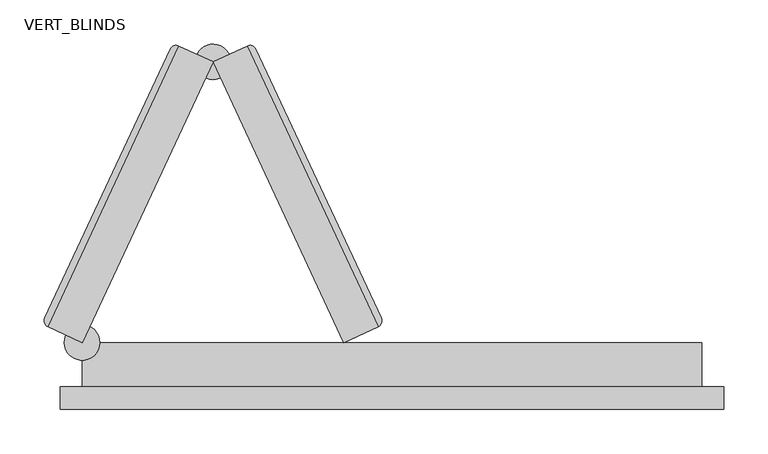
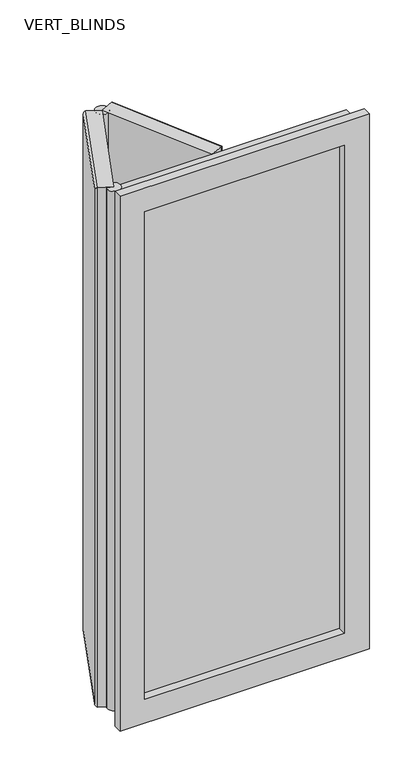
"""IFC4 building model written with IfcOpenShell, lengths in millimetres: plate geometry, CURTAIN PANEL VODA STYLE BIFOLDING : VERT_BLINDS."""

from ifc_helpers import new_model, si_unit, point, frame, frame_2d, origin, place, context, project, spatial, polyline, circle_curve, ellipse_curve, trimmed, segment, composite_curve, outline, extrude, faceted_brep, source, transform, mapped, element, save
from ifc_brep_helpers import plane_surface, cylinder_surface, advanced_brep


def vert_blinds_6ffad1b3(model_context):
    return source(origin(), model_context, "Body", "SolidModel", [
        advanced_brep(
        [(-350.0, 50.0, 1675.0), (-202.0836084, 367.2077255, 1675.0), (-240.6016893, 385.1690016, 1675.0), (-388.5180809, 67.9612761, 1675.0), (-202.0836084, 367.2077255, 25.0), (-350.0, 50.0, 25.0), (-388.5180809, 67.9612761, 25.0), (-240.6016893, 385.1690016, 25.0), (-392.1457524, 77.9282215, 32.5), (-392.1457524, 77.9282215, 1667.5), (-250.5686347, 381.5413301, 1667.5), (-250.5686347, 381.5413301, 32.5)],
        [
            (0, 1),
            (1, 2),
            (2, 3),
            (3, 0),
            (4, 5),
            (5, 6),
            (6, 7),
            (7, 4),
            (1, 4),
            (7, 2),
            (8, 9),
            (9, 10),
            (10, 11),
            (11, 8),
            (5, 0),
            (3, 6),
            (8, 6, ellipse_curve(frame((-385.348444, 74.7585845, 32.5), z_axis=(-0.29883623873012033, -0.6408563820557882, 0.7071067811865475), x_axis=(-0.29883623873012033, -0.6408563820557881, -0.7071067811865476)), 10.6066017, 7.5)),
            (3, 9, ellipse_curve(frame((-385.348444, 74.7585845, 1667.5), z_axis=(-0.2988362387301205, -0.6408563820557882, -0.7071067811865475), x_axis=(0.29883623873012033, 0.6408563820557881, -0.7071067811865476)), 10.6066017, 7.5)),
            (11, 7, ellipse_curve(frame((-243.7713263, 378.3716932, 32.5), z_axis=(-0.29883623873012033, -0.6408563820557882, -0.7071067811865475), x_axis=(0.29883623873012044, 0.6408563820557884, -0.7071067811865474)), 10.6066017, 7.5)),
            (10, 2, ellipse_curve(frame((-243.7713263, 378.3716932, 1667.5), z_axis=(0.2988362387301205, 0.6408563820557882, -0.7071067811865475), x_axis=(0.29883623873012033, 0.6408563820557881, 0.7071067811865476)), 10.6066017, 7.5)),
        ],
        [
            plane_surface(frame((-247.3989977, 388.3386385, 1675.0), z_axis=(0.0, 0.0, 1.0000000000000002), x_axis=(-0.9063077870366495, 0.42261826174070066, 0.0))),
            plane_surface(frame((-247.3989977, 388.3386385, 25.0), z_axis=(0.0, 0.0, -1.0000000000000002), x_axis=(0.9063077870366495, -0.42261826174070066, 0.0))),
            plane_surface(frame((-202.0836084, 367.2077255, 1675.0), z_axis=(0.42261826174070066, 0.9063077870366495, 0.0), x_axis=(0.0, 0.0, -1.0))),
            plane_surface(frame((-247.3989977, 388.3386385, 1675.0), z_axis=(-0.9063077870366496, 0.4226182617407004, 0.0), x_axis=(0.0, 0.0, -1.0))),
            plane_surface(frame((-395.3153894, 71.1309131, 1675.0), z_axis=(-0.4226182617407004, -0.9063077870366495, 0.0), x_axis=(0.0, 0.0, -1.0))),
            plane_surface(frame((-350.0, 50.0, 1675.0), z_axis=(0.9063077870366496, -0.42261826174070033, 0.0), x_axis=(0.0, 0.0, -1.0))),
            cylinder_surface(frame((-385.348444, 74.7585845, 1675.0), z_axis=(0.0, 0.0, -1.0), x_axis=(0.9063077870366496, -0.4226182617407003, 0.0)), 7.5),
            cylinder_surface(frame((-388.5180809, 67.9612761, 32.5), z_axis=(0.4226182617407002, 0.9063077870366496, 0.0), x_axis=(0.9063077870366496, -0.4226182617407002, 0.0)), 7.5),
            cylinder_surface(frame((-243.7713263, 378.3716932, 25.0), z_axis=(0.0, 0.0, 1.0), x_axis=(0.9063077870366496, -0.4226182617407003, 0.0)), 7.5),
            cylinder_surface(frame((-240.6016893, 385.1690016, 1667.5), z_axis=(-0.42261826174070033, -0.9063077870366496, 0.0), x_axis=(0.9063077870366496, -0.42261826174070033, 0.0)), 7.5),
        ],
        [
            (0, [[1, 2, 3, 4]]),
            (1, [[5, 6, 7, 8]]),
            (2, [[9, -8, 10, -2]]),
            (3, [[11, 12, 13, 14]]),
            (4, [[15, -4, 16, -6]]),
            (5, [[-1, -15, -5, -9]]),
            (6, [[17, -16, 18, -11]]),
            (7, [[-17, -14, 19, -7]]),
            (8, [[-19, -13, 20, -10]]),
            (9, [[-18, -3, -20, -12]]),
        ],
    ),
        advanced_brep(
        [(-202.0836084, 367.2077255, 1675.0), (-54.1672168, 50.0, 1675.0), (-15.6491358, 67.9612761, 1675.0), (-163.5655274, 385.1690016, 1675.0), (-54.1672168, 50.0, 25.0), (-202.0836084, 367.2077255, 25.0), (-163.5655274, 385.1690016, 25.0), (-15.6491358, 67.9612761, 25.0), (-153.5985821, 381.5413301, 32.5), (-153.5985821, 381.5413301, 1667.5), (-12.0214644, 77.9282215, 1667.5), (-12.0214644, 77.9282215, 32.5)],
        [
            (0, 1),
            (1, 2),
            (2, 3),
            (3, 0),
            (4, 5),
            (5, 6),
            (6, 7),
            (7, 4),
            (1, 4),
            (7, 2),
            (8, 9),
            (9, 10),
            (10, 11),
            (11, 8),
            (5, 0),
            (3, 6),
            (8, 6, ellipse_curve(frame((-160.3958905, 378.3716932, 32.5), z_axis=(-0.29883623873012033, 0.6408563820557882, 0.7071067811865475), x_axis=(-0.2988362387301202, 0.6408563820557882, -0.7071067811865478)), 10.6066017, 7.5)),
            (3, 9, ellipse_curve(frame((-160.3958905, 378.3716932, 1667.5), z_axis=(-0.2988362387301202, 0.6408563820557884, -0.7071067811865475), x_axis=(0.2988362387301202, -0.6408563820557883, -0.7071067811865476)), 10.6066017, 7.5)),
            (11, 7, ellipse_curve(frame((-18.8187728, 74.7585845, 32.5), z_axis=(-0.29883623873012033, 0.6408563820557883, -0.7071067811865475), x_axis=(0.29883623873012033, -0.6408563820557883, -0.7071067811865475)), 10.6066017, 7.5)),
            (10, 2, ellipse_curve(frame((-18.8187728, 74.7585845, 1667.5), z_axis=(0.2988362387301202, -0.6408563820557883, -0.7071067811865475), x_axis=(0.2988362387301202, -0.6408563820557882, 0.7071067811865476)), 10.6066017, 7.5)),
        ],
        [
            plane_surface(frame((-8.8518274, 71.1309131, 1675.0), z_axis=(0.0, 0.0, 1.0000000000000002), x_axis=(0.9063077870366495, 0.4226182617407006, 0.0))),
            plane_surface(frame((-8.8518274, 71.1309131, 25.0), z_axis=(0.0, 0.0, -1.0000000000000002), x_axis=(-0.9063077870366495, -0.4226182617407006, 0.0))),
            plane_surface(frame((-54.1672168, 50.0, 1675.0), z_axis=(0.4226182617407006, -0.9063077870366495, 0.0), x_axis=(0.0, 0.0, -1.0))),
            plane_surface(frame((-8.8518274, 71.1309131, 1675.0), z_axis=(0.9063077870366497, 0.42261826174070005, 0.0), x_axis=(0.0, 0.0, -1.0))),
            plane_surface(frame((-156.768219, 388.3386385, 1675.0), z_axis=(-0.42261826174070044, 0.9063077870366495, 0.0), x_axis=(0.0, 0.0, -1.0))),
            plane_surface(frame((-202.0836084, 367.2077255, 1675.0), z_axis=(-0.9063077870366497, -0.4226182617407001, 0.0), x_axis=(0.0, 0.0, -1.0))),
            cylinder_surface(frame((-160.3958905, 378.3716932, 1675.0), z_axis=(0.0, 0.0, -1.0), x_axis=(-0.9063077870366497, -0.42261826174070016, 0.0)), 7.5),
            cylinder_surface(frame((-163.5655274, 385.1690016, 32.5), z_axis=(0.42261826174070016, -0.9063077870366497, 0.0), x_axis=(-0.9063077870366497, -0.42261826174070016, 0.0)), 7.5),
            cylinder_surface(frame((-18.8187728, 74.7585845, 25.0), z_axis=(0.0, 0.0, 1.0), x_axis=(-0.9063077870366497, -0.42261826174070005, 0.0)), 7.5),
            cylinder_surface(frame((-15.6491358, 67.9612761, 1667.5), z_axis=(-0.42261826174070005, 0.9063077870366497, 0.0), x_axis=(-0.9063077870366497, -0.42261826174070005, 0.0)), 7.5),
        ],
        [
            (0, [[1, 2, 3, 4]]),
            (1, [[5, 6, 7, 8]]),
            (2, [[9, -8, 10, -2]]),
            (3, [[11, 12, 13, 14]]),
            (4, [[15, -4, 16, -6]]),
            (5, [[-1, -15, -5, -9]]),
            (6, [[17, -16, 18, -11]]),
            (7, [[-17, -14, 19, -7]]),
            (8, [[-19, -13, 20, -10]]),
            (9, [[-18, -3, -20, -12]]),
        ],
    ),
        extrude(outline(composite_curve([segment(trimmed(circle_curve(frame_2d((-350.0, 50.0)), 20.0), [point((-370.0, 50.0))], [point((-330.0, 50.0))], False, "CARTESIAN"), True, "CONTINUOUS"), segment(trimmed(circle_curve(frame_2d((-350.0, 50.0)), 20.0), [point((-330.0, 50.0))], [point((-370.0, 50.0))], False, "CARTESIAN"), True, "CONTINUOUS")], self_intersect=False)), frame((0.0, 0.0, 25.0), z_axis=(0.0, 0.0, 1.0), x_axis=(1.0, 0.0, 0.0)), (0.0, 0.0, 1.0), 1650.0),
        extrude(outline(composite_curve([segment(trimmed(circle_curve(frame_2d((-202.0836084, 367.2077255)), 20.0), [point((-210.5359736, 349.0815697))], [point((-193.6312432, 385.3338812))], False, "CARTESIAN"), True, "CONTINUOUS"), segment(trimmed(circle_curve(frame_2d((-202.0836084, 367.2077255)), 20.0), [point((-193.6312432, 385.3338812))], [point((-210.5359736, 349.0815697))], False, "CARTESIAN"), True, "CONTINUOUS")], self_intersect=False)), frame((0.0, 0.0, 25.0), z_axis=(0.0, 0.0, 1.0), x_axis=(1.0, 0.0, 0.0)), (0.0, 0.0, 1.0), 1650.0),
        extrude(outline(polyline([(-300.0, 24.0), (300.0, 24.0), (300.0, 0.0), (-300.0, 0.0), (-300.0, 24.0)])), frame((0.0, 0.0, 75.0), z_axis=(0.0, 0.0, 1.0), x_axis=(1.0, 0.0, 0.0)), (0.0, 0.0, 1.0), 1550.0),
        faceted_brep([(-300.0, 50.0, 1625.0), (-300.0, -25.0, 1625.0), (-300.0, -25.0, 75.0), (-300.0, 50.0, 75.0), (-375.0, -25.0, 1700.0), (-375.0, 0.0, 1700.0), (-375.0, 0.0, 0.0), (-375.0, -25.0, 0.0), (-350.0, 0.0, 1675.0), (-350.0, 50.0, 1675.0), (-350.0, 50.0, 25.0), (-350.0, 0.0, 25.0), (300.0, -25.0, 75.0), (300.0, 50.0, 75.0), (375.0, 0.0, 0.0), (375.0, -25.0, 0.0), (350.0, 50.0, 25.0), (350.0, 0.0, 25.0), (300.0, -25.0, 1625.0), (300.0, 50.0, 1625.0), (375.0, 0.0, 1700.0), (375.0, -25.0, 1700.0), (350.0, 50.0, 1675.0), (350.0, 0.0, 1675.0)], [[[0, 1, 2, 3]], [[4, 5, 6, 7]], [[8, 9, 10, 11]], [[3, 2, 12, 13]], [[7, 6, 14, 15]], [[11, 10, 16, 17]], [[13, 12, 18, 19]], [[15, 14, 20, 21]], [[17, 16, 22, 23]], [[9, 22, 16, 10], [3, 13, 19, 0]], [[19, 18, 1, 0]], [[7, 15, 21, 4], [1, 18, 12, 2]], [[21, 20, 5, 4]], [[5, 20, 14, 6], [11, 17, 23, 8]], [[23, 22, 9, 8]]]),
    ])


if __name__ == "__main__":
    model = new_model("IFC4")
    model_context = context("Model", 3, world=origin())
    ifc_project = project(units=[si_unit("LENGTHUNIT", "METRE", prefix="MILLI")], contexts=[model_context])
    site = spatial("IfcSite", under=ifc_project)
    building = spatial("IfcBuilding", under=site)
    placement = place(None, origin())
    vert_blinds_shape = vert_blinds_6ffad1b3(model_context)
    element("IfcPlate", 1, ObjectType="CURTAIN PANEL VODA STYLE BIFOLDING : VERT_BLINDS", at=placement, inside=building, context=model_context, shape_type="MappedRepresentation", body=[
        mapped(vert_blinds_shape, transform((0.0, 0.0, 0.0), x_axis=(1.0, 0.0, 0.0), y_axis=(0.0, 1.0, 0.0), z_axis=(0.0, 0.0, 1.0))),
    ])
    save(model, "model.ifc")
